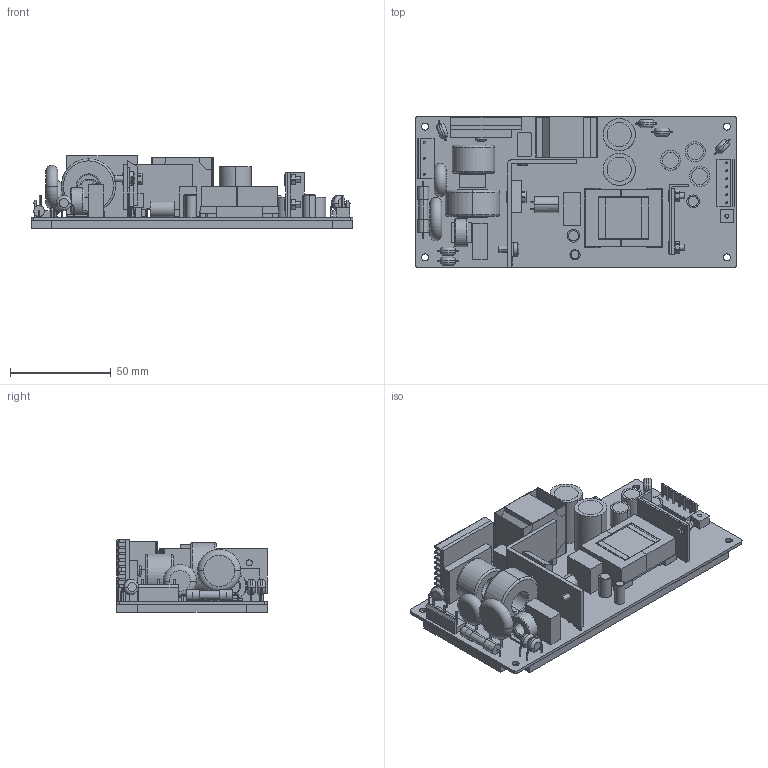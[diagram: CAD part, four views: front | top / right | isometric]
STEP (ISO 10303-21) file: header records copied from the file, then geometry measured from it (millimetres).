
FILE_DESCRIPTION((''),'2;1');
FILE_NAME('150W_ASM','2024-08-08T',('410022'),(''),'PRO/ENGINEER BY PARAMETRIC TECHNOLOGY CORPORATION, 2010280','PRO/ENGINEER BY PARAMETRIC TECHNOLOGY CORPORATION, 2010280','');
FILE_SCHEMA(('AUTOMOTIVE_DESIGN_CC2 { 1 2 10303 214 -1 1 5 2 }'));
Length unit declared in the file: millimetre
Products named in the file (287): PRT0463; ASM0335_ASM_ASM; PRT0464; ASM0336_ASM_ASM; PRT0465; ASM0337_ASM_ASM; PRT0466; ASM0338_ASM_ASM; PRT0467; ASM0339_ASM_ASM; ASM0334_ASM_ASM; PRT0468; ASM0341_ASM_ASM; PRT0469; ASM0342_ASM_ASM; PRT0470; ASM0343_ASM_ASM; ASM0340_ASM_ASM; PRT0471; ASM0345_ASM_ASM; PRT0472; ASM0346_ASM_ASM; PRT0473; ASM0347_ASM_ASM; ASM0344_ASM_ASM; PRT0474; ASM0349_ASM_ASM; PRT0475; ASM0350_ASM_ASM; PRT0476; ASM0351_ASM_ASM; PRT0477; ASM0352_ASM_ASM; PRT0478; ASM0353_ASM_ASM; PRT0479; ASM0354_ASM_ASM; PRT0480; ASM0355_ASM_ASM; PRT0481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
Assembly tree (351 placements, depth 9):
  150W_ASM
    CCCCCC_ASM_ASM
      ASM0332_ASM_ASM
        ASM0333_ASM_ASM
          ASM0334_ASM_ASM
            ASM0335_ASM_ASM
              PRT0463
            ASM0336_ASM_ASM
              PRT0464
            ASM0337_ASM_ASM  x2
              PRT0465
            ASM0338_ASM_ASM  x2
              PRT0466
            ASM0339_ASM_ASM  x2
              PRT0467
          ASM0340_ASM_ASM
            ASM0341_ASM_ASM
              PRT0468
            ASM0342_ASM_ASM
              PRT0469
            ASM0343_ASM_ASM  x2
              PRT0470
          ASM0344_ASM_ASM
            ASM0345_ASM_ASM
              PRT0471
            ASM0346_ASM_ASM
              PRT0472
            ASM0347_ASM_ASM  x3
              PRT0473
          ASM0348_ASM_ASM
            ASM0349_ASM_ASM
              PRT0474
            ASM0350_ASM_ASM
              PRT0475
            ASM0351_ASM_ASM
              PRT0476
            ASM0352_ASM_ASM
              PRT0477
            ASM0353_ASM_ASM
              PRT0478
            ASM0354_ASM_ASM
              PRT0479
            ASM0355_ASM_ASM
              PRT0480
            ASM0356_ASM_ASM
              PRT0481
          ASM0357_ASM_ASM
            ASM0358_ASM_ASM
              PRT0482
            ASM0359_ASM_ASM  x2
              PRT0483
          ASM0360_ASM_ASM
            PRT0484
          ASM0361_ASM_ASM
            PRT0485  x2
            PRT0486  x2
            ASM0362_ASM_ASM
              ASM0363_ASM_ASM
                ASM0364_ASM_ASM
              ASM0366_ASM_ASM
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Bounding box: 160 x 75.03 x 36.2 mm (x, y, z)
Volume: 148305.4 mm3; surface area: 108888.1 mm2
Topology: 168 solids, 209 shells, 1424 faces, 3274 edges, 2234 vertices
Faces by surface type: plane 972, cylinder 336, torus 70, revolution 24, sphere 16, cone 6
Entity records: 46762 total; most frequent: CARTESIAN_POINT 7303, DIRECTION 7248, ORIENTED_EDGE 4924, AXIS2_PLACEMENT_3D 2783, EDGE_CURVE 2500, PRESENTATION_STYLE_ASSIGNMENT 2206, STYLED_ITEM 2206, CURVE_STYLE 2088
